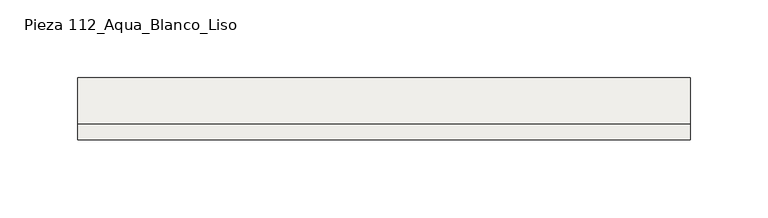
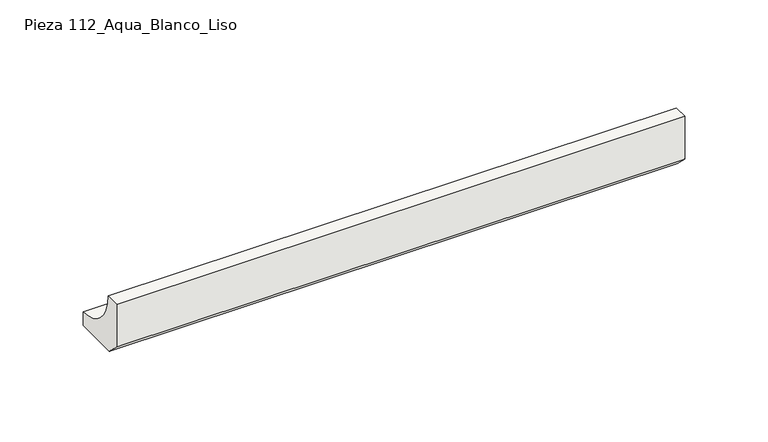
"""IFC4 building model written with IfcOpenShell, lengths in millimetres: slab geometry, ROSA GRES_112 : Pieza 112_Aqua_Blanco_Liso."""

from ifc_helpers import new_model, si_unit, point, frame, frame_2d, origin, place, context, project, spatial, polyline, circle_curve, trimmed, segment, composite_curve, outline, extrude, source, transform, mapped, element, save


def pieza_112_aqua_blanco_liso_48b5f9b6(model_context):
    return source(origin(), model_context, "Body", "SweptSolid", [
        extrude(outline(composite_curve([segment(polyline([(-9.9734114, 8.7114978), (-9.9734114, 40.0), (0.0, 40.0)]), True, "CONTINUOUS"), segment(trimmed(circle_curve(frame_2d((30.0221432, 39.9955547)), 30.0221435), [point((0.0, 40.0))], [point((30.0265886, 9.9734114))], True, "CARTESIAN"), True, "CONTINUOUS"), segment(polyline([(30.0265886, 9.9734114), (30.0265886, 0.0), (-1.2619137, 0.0), (-9.9734114, 8.7114978)]), True, "CONTINUOUS")], self_intersect=False)), frame((0.0, 0.0, 0.0), z_axis=(1.0, 0.0, 0.0), x_axis=(0.0, 1.0, 0.0)), (0.0, 0.0, 1.0), 393.8620113),
    ])


if __name__ == "__main__":
    model = new_model("IFC4")
    model_context = context("Model", 3, world=origin())
    ifc_project = project(units=[si_unit("LENGTHUNIT", "METRE", prefix="MILLI")], contexts=[model_context])
    site = spatial("IfcSite", under=ifc_project)
    building = spatial("IfcBuilding", under=site)
    placement = place(None, origin())
    pieza_112_aqua_blanco_liso_shape = pieza_112_aqua_blanco_liso_48b5f9b6(model_context)
    element("IfcSlab", 1, ObjectType="ROSA GRES_112 : Pieza 112_Aqua_Blanco_Liso", at=placement, inside=building, context=model_context, shape_type="MappedRepresentation", body=[
        mapped(pieza_112_aqua_blanco_liso_shape, transform((0.0, 0.0, 0.0), x_axis=(1.0, 0.0, 0.0), y_axis=(0.0, 1.0, 0.0), z_axis=(0.0, 0.0, 1.0))),
    ])
    save(model, "model.ifc")
